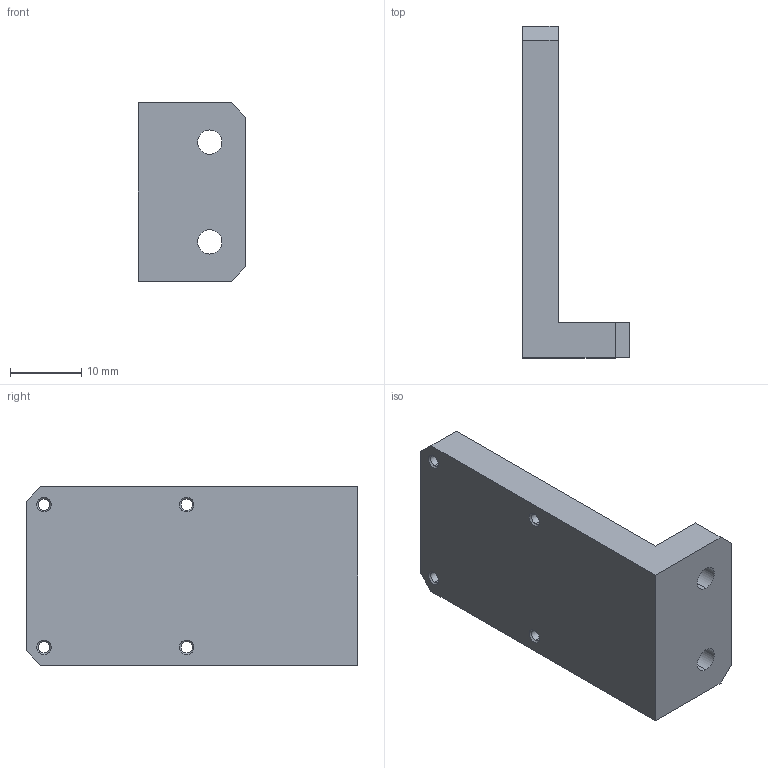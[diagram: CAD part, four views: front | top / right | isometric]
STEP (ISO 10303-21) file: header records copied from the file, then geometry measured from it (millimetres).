
FILE_DESCRIPTION (( 'STEP AP214' ), '1' );
FILE_NAME ('弇痄怢假蚾釱.STEP', '2025-08-06T08:00:01', ( '' ), ( '' ), 'SwSTEP 2.0', 'SolidWorks 2024', '' );
FILE_SCHEMA (( 'AUTOMOTIVE_DESIGN' ));
Length unit declared in the file: millimetre
Products named in the file (1): 位移台安装座
Bounding box: 15 x 46.5 x 25 mm (x, y, z)
Volume: 6890.9 mm3; surface area: 3753.1 mm2
Topology: 1 solids, 1 shells, 32 faces, 82 edges, 52 vertices
Faces by surface type: cylinder 12, plane 12, cone 8
Entity records: 1021 total; most frequent: DIRECTION 180, CARTESIAN_POINT 167, ORIENTED_EDGE 164, EDGE_CURVE 82, AXIS2_PLACEMENT_3D 65, VERTEX_POINT 52, LINE 50, VECTOR 50
